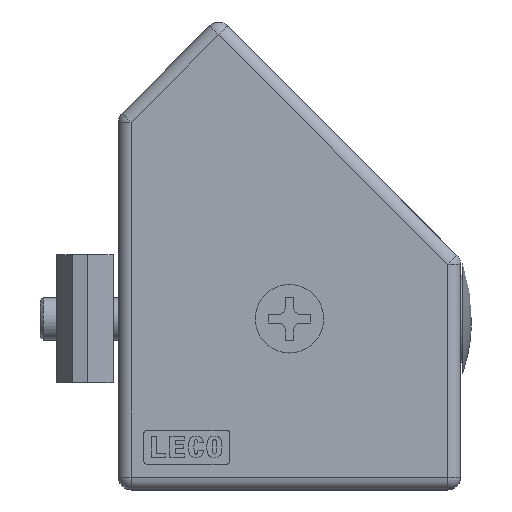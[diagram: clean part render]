
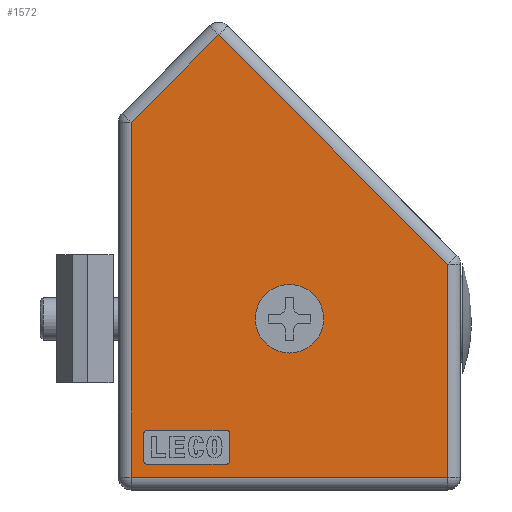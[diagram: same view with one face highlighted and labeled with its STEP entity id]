
A CAD part, left-side view. The second image highlights one B-rep face of the part: STEP entity #1572.
In plain terms, the highlighted planar face has unit normal (-1, 0, 0) as drawn and (0, 0, 1) by its records, which use the part's own axes.
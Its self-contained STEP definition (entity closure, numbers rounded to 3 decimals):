
#1572=ADVANCED_FACE('',(#3322,#3323,#3324),#3325,.F.);
#3322=FACE_BOUND('',#7865,.T.);
#3323=FACE_BOUND('',#7866,.T.);
#3324=FACE_OUTER_BOUND('',#7867,.T.);
#3325=PLANE('',#7868);
#7865=EDGE_LOOP('',(#13345,#13346,#13347,#13348,#13349,#13350,#13351,#13352));
#7866=EDGE_LOOP('',(#13353));
#7867=EDGE_LOOP('',(#13354,#13355,#13356,#13357,#13358));
#7868=AXIS2_PLACEMENT_3D('',#13359,#13360,#13361);
#13345=ORIENTED_EDGE('',*,*,#16889,.F.);
#13346=ORIENTED_EDGE('',*,*,#17852,.F.);
#13347=ORIENTED_EDGE('',*,*,#17853,.F.);
#13348=ORIENTED_EDGE('',*,*,#17854,.F.);
#13349=ORIENTED_EDGE('',*,*,#16663,.F.);
#13350=ORIENTED_EDGE('',*,*,#17607,.F.);
#13351=ORIENTED_EDGE('',*,*,#17108,.F.);
#13352=ORIENTED_EDGE('',*,*,#16492,.F.);
#13353=ORIENTED_EDGE('',*,*,#17321,.F.);
#13354=ORIENTED_EDGE('',*,*,#17855,.T.);
#13355=ORIENTED_EDGE('',*,*,#16851,.F.);
#13356=ORIENTED_EDGE('',*,*,#17785,.F.);
#13357=ORIENTED_EDGE('',*,*,#17034,.F.);
#13358=ORIENTED_EDGE('',*,*,#17494,.F.);
#13359=CARTESIAN_POINT('',(38.5,56.97,13.));
#13360=DIRECTION('',(0.0,0.0,-1.0));
#13361=DIRECTION('',(0.0,1.0,0.0));
#16492=EDGE_CURVE('',#18784,#18785,#18786,.T.);
#16663=EDGE_CURVE('',#19085,#19086,#19087,.T.);
#16851=EDGE_CURVE('',#19410,#19412,#19413,.T.);
#16889=EDGE_CURVE('',#19477,#18784,#19478,.T.);
#17034=EDGE_CURVE('',#19718,#19719,#19720,.T.);
#17108=EDGE_CURVE('',#18785,#19842,#19843,.T.);
#17321=EDGE_CURVE('',#20189,#20189,#20190,.T.);
#17494=EDGE_CURVE('',#20466,#19718,#20467,.T.);
#17607=EDGE_CURVE('',#19842,#19085,#20629,.T.);
#17785=EDGE_CURVE('',#19719,#19410,#20887,.T.);
#17852=EDGE_CURVE('',#20978,#19477,#20979,.T.);
#17853=EDGE_CURVE('',#20980,#20978,#20981,.T.);
#17854=EDGE_CURVE('',#19086,#20980,#20982,.T.);
#17855=EDGE_CURVE('',#20466,#19412,#20983,.T.);
#18784=VERTEX_POINT('',#22108);
#18785=VERTEX_POINT('',#22109);
#18786=LINE('',#22110,#22111);
#19085=VERTEX_POINT('',#22508);
#19086=VERTEX_POINT('',#22509);
#19087=CIRCLE('',#22510,0.4);
#19410=VERTEX_POINT('',#23132);
#19412=VERTEX_POINT('',#23134);
#19413=LINE('',#23135,#23136);
#19477=VERTEX_POINT('',#23298);
#19478=CIRCLE('',#23299,0.4);
#19718=VERTEX_POINT('',#23653);
#19719=VERTEX_POINT('',#23654);
#19720=LINE('',#23655,#23656);
#19842=VERTEX_POINT('',#23813);
#19843=CIRCLE('',#23814,0.4);
#20189=VERTEX_POINT('',#24541);
#20190=CIRCLE('',#24542,4.0);
#20466=VERTEX_POINT('',#25018);
#20467=LINE('',#25019,#25020);
#20629=LINE('',#25424,#25425);
#20887=LINE('',#26031,#26032);
#20978=VERTEX_POINT('',#26202);
#20979=LINE('',#26203,#26204);
#20980=VERTEX_POINT('',#26205);
#20981=CIRCLE('',#26206,0.4);
#20982=LINE('',#26207,#26208);
#20983=LINE('',#26209,#26210);
#22108=CARTESIAN_POINT('',(3.4,3.,13.));
#22109=CARTESIAN_POINT('',(12.6,3.,13.));
#22110=CARTESIAN_POINT('',(3.4,3.,13.));
#22111=VECTOR('',#28071,1.0);
#22508=CARTESIAN_POINT('',(13.,6.6,13.));
#22509=CARTESIAN_POINT('',(12.6,7.,13.));
#22510=AXIS2_PLACEMENT_3D('',#28296,#28297,#28298);
#23132=CARTESIAN_POINT('',(38.5,1.5,13.));
#23134=CARTESIAN_POINT('',(1.5,1.5,13.));
#23135=CARTESIAN_POINT('',(44.836,1.5,13.));
#23136=VECTOR('',#28535,1.0);
#23298=CARTESIAN_POINT('',(3.,3.4,13.));
#23299=AXIS2_PLACEMENT_3D('',#28583,#28584,#28585);
#23653=CARTESIAN_POINT('',(11.716,53.163,13.));
#23654=CARTESIAN_POINT('',(38.5,26.379,13.));
#23655=CARTESIAN_POINT('',(23.204,41.675,13.));
#23656=VECTOR('',#28773,1.0);
#23813=CARTESIAN_POINT('',(13.,3.4,13.));
#23814=AXIS2_PLACEMENT_3D('',#28875,#28876,#28877);
#24541=CARTESIAN_POINT('',(20.,24.,13.));
#24542=AXIS2_PLACEMENT_3D('',#29149,#29150,#29151);
#25018=CARTESIAN_POINT('',(1.5,42.947,13.));
#25019=CARTESIAN_POINT('',(27.012,68.459,13.));
#25020=VECTOR('',#29374,1.0);
#25424=CARTESIAN_POINT('',(13.,3.4,13.));
#25425=VECTOR('',#29520,1.0);
#26031=CARTESIAN_POINT('',(38.5,56.97,13.));
#26032=VECTOR('',#29753,1.0);
#26202=CARTESIAN_POINT('',(3.,6.6,13.));
#26203=CARTESIAN_POINT('',(3.,6.6,13.));
#26204=VECTOR('',#29828,1.0);
#26205=CARTESIAN_POINT('',(3.4,7.,13.));
#26206=AXIS2_PLACEMENT_3D('',#29829,#29830,#29831);
#26207=CARTESIAN_POINT('',(12.6,7.,13.));
#26208=VECTOR('',#29832,1.0);
#26209=CARTESIAN_POINT('',(1.5,56.97,13.));
#26210=VECTOR('',#29833,1.0);
#28071=DIRECTION('',(1.0,0.0,0.0));
#28296=CARTESIAN_POINT('',(12.6,6.6,13.));
#28297=DIRECTION('',(0.0,0.0,1.0));
#28298=DIRECTION('',(1.0,0.0,0.0));
#28535=DIRECTION('',(-1.0,0.0,0.0));
#28583=CARTESIAN_POINT('',(3.4,3.4,13.));
#28584=DIRECTION('',(0.0,0.0,1.0));
#28585=DIRECTION('',(1.0,0.0,0.0));
#28773=DIRECTION('',(0.707,-0.707,0.0));
#28875=CARTESIAN_POINT('',(12.6,3.4,13.));
#28876=DIRECTION('',(0.0,0.0,1.0));
#28877=DIRECTION('',(1.0,0.0,0.0));
#29149=CARTESIAN_POINT('',(20.,20.,13.));
#29150=DIRECTION('',(0.0,-0.0,1.0));
#29151=DIRECTION('',(0.0,1.0,0.0));
#29374=DIRECTION('',(0.707,0.707,0.0));
#29520=DIRECTION('',(0.0,1.0,0.0));
#29753=DIRECTION('',(0.0,-1.0,0.0));
#29828=DIRECTION('',(0.0,-1.0,0.0));
#29829=CARTESIAN_POINT('',(3.4,6.6,13.));
#29830=DIRECTION('',(0.0,0.0,1.0));
#29831=DIRECTION('',(1.0,0.0,0.0));
#29832=DIRECTION('',(-1.0,0.0,0.0));
#29833=DIRECTION('',(0.0,-1.0,0.0));
